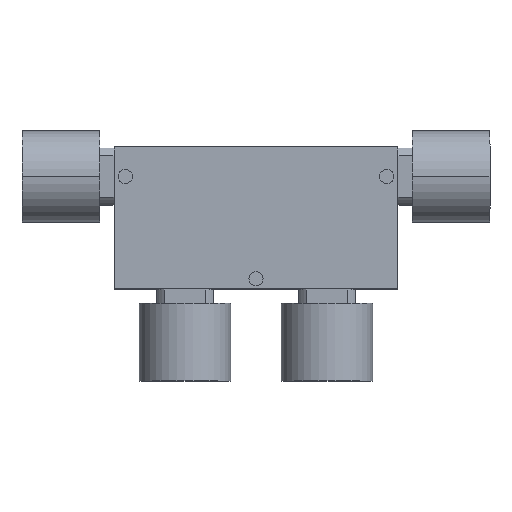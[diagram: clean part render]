
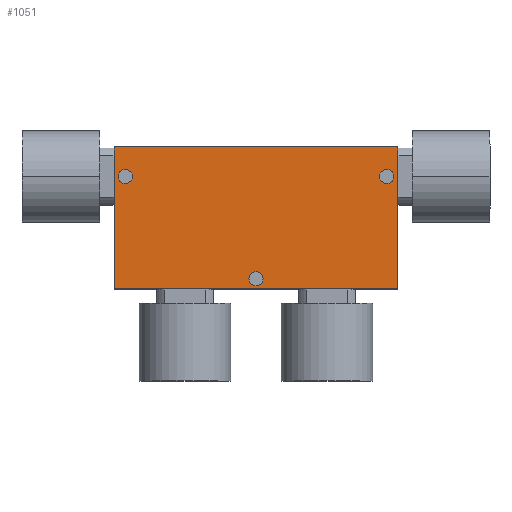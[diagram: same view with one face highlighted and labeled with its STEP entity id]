
A CAD part, top view. The second image highlights one B-rep face of the part: STEP entity #1051.
In plain terms, the highlighted planar face has unit normal (0, 0, 1).
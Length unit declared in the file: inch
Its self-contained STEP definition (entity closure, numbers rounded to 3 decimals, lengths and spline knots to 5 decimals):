
#5 = EDGE_CURVE ( 'NONE', #1721, #904, #818, .T. ) ;
#51 = VERTEX_POINT ( 'NONE', #1908 ) ;
#171 = ORIENTED_EDGE ( 'NONE', *, *, #1635, .F. ) ;
#195 = CARTESIAN_POINT ( 'NONE',  ( 1.25, -0.625, 0.365 ) ) ;
#208 = CARTESIAN_POINT ( 'NONE',  ( 1.25, 0.625, 0.365 ) ) ;
#243 = VECTOR ( 'NONE', #1658, 39.37008 ) ;
#248 = ORIENTED_EDGE ( 'NONE', *, *, #5, .T. ) ;
#253 = DIRECTION ( 'NONE',  ( 0., 0., 1. ) ) ;
#313 = DIRECTION ( 'NONE',  ( 1., 0., 0. ) ) ;
#325 = DIRECTION ( 'NONE',  ( 1., 0., 0. ) ) ;
#328 = ORIENTED_EDGE ( 'NONE', *, *, #784, .T. ) ;
#346 = VECTOR ( 'NONE', #1479, 39.37008 ) ;
#357 = EDGE_CURVE ( 'NONE', #904, #1890, #768, .T. ) ;
#363 = CARTESIAN_POINT ( 'NONE',  ( 0., -0.535, 0.365 ) ) ;
#378 = ORIENTED_EDGE ( 'NONE', *, *, #357, .T. ) ;
#389 = ORIENTED_EDGE ( 'NONE', *, *, #1274, .F. ) ;
#417 = CARTESIAN_POINT ( 'NONE',  ( 1.2125, 0.365, 0.365 ) ) ;
#446 = CARTESIAN_POINT ( 'NONE',  ( -1.25, -0.625, 0.365 ) ) ;
#453 = AXIS2_PLACEMENT_3D ( 'NONE', #501, #1775, #325 ) ;
#469 = AXIS2_PLACEMENT_3D ( 'NONE', #1703, #253, #732 ) ;
#501 = CARTESIAN_POINT ( 'NONE',  ( 1.15, 0.365, 0.365 ) ) ;
#505 = ORIENTED_EDGE ( 'NONE', *, *, #1615, .F. ) ;
#516 = ORIENTED_EDGE ( 'NONE', *, *, #1751, .F. ) ;
#527 = DIRECTION ( 'NONE',  ( 0., 0., 1. ) ) ;
#550 = CARTESIAN_POINT ( 'NONE',  ( -1.25, -0.625, 0.365 ) ) ;
#597 = VERTEX_POINT ( 'NONE', #1318 ) ;
#604 = EDGE_CURVE ( 'NONE', #776, #1885, #1868, .T. ) ;
#648 = DIRECTION ( 'NONE',  ( 0., 0., 1. ) ) ;
#658 = CARTESIAN_POINT ( 'NONE',  ( 1.0875, 0.365, 0.365 ) ) ;
#688 = CIRCLE ( 'NONE', #1259, 0.0625 ) ;
#732 = DIRECTION ( 'NONE',  ( 1., 0., 0. ) ) ;
#748 = AXIS2_PLACEMENT_3D ( 'NONE', #1276, #648, #1464 ) ;
#758 = CARTESIAN_POINT ( 'NONE',  ( -1.2125, 0.365, 0.365 ) ) ;
#768 = LINE ( 'NONE', #1763, #346 ) ;
#776 = VERTEX_POINT ( 'NONE', #758 ) ;
#784 = EDGE_CURVE ( 'NONE', #1890, #1806, #1608, .T. ) ;
#786 = CARTESIAN_POINT ( 'NONE',  ( -1.25, 0.625, 0.365 ) ) ;
#816 = CARTESIAN_POINT ( 'NONE',  ( 0., 0., 0.365 ) ) ;
#818 = LINE ( 'NONE', #1980, #1817 ) ;
#870 = LINE ( 'NONE', #208, #243 ) ;
#904 = VERTEX_POINT ( 'NONE', #786 ) ;
#932 = AXIS2_PLACEMENT_3D ( 'NONE', #1442, #1294, #958 ) ;
#958 = DIRECTION ( 'NONE',  ( 1., 0., 0. ) ) ;
#1051 = ADVANCED_FACE ( 'NONE', ( #1864, #1326, #1377, #1745 ), #1802, .T. ) ;
#1082 = VERTEX_POINT ( 'NONE', #658 ) ;
#1138 = DIRECTION ( 'NONE',  ( 0., 0., 1. ) ) ;
#1212 = EDGE_LOOP ( 'NONE', ( #1256, #505 ) ) ;
#1226 = CARTESIAN_POINT ( 'NONE',  ( -1.0875, 0.365, 0.365 ) ) ;
#1256 = ORIENTED_EDGE ( 'NONE', *, *, #1598, .F. ) ;
#1259 = AXIS2_PLACEMENT_3D ( 'NONE', #363, #527, #1474 ) ;
#1274 = EDGE_CURVE ( 'NONE', #1885, #776, #2058, .T. ) ;
#1276 = CARTESIAN_POINT ( 'NONE',  ( 0., -0.535, 0.365 ) ) ;
#1294 = DIRECTION ( 'NONE',  ( 0., 0., 1. ) ) ;
#1312 = CARTESIAN_POINT ( 'NONE',  ( 1.25, 0.625, 0.365 ) ) ;
#1318 = CARTESIAN_POINT ( 'NONE',  ( 0.0625, -0.535, 0.365 ) ) ;
#1326 = FACE_BOUND ( 'NONE', #1480, .T. ) ;
#1327 = EDGE_LOOP ( 'NONE', ( #389, #1953 ) ) ;
#1377 = FACE_BOUND ( 'NONE', #1327, .T. ) ;
#1410 = VECTOR ( 'NONE', #2022, 39.37008 ) ;
#1442 = CARTESIAN_POINT ( 'NONE',  ( 1.15, 0.365, 0.365 ) ) ;
#1456 = CIRCLE ( 'NONE', #453, 0.0625 ) ;
#1464 = DIRECTION ( 'NONE',  ( 1., 0., 0. ) ) ;
#1474 = DIRECTION ( 'NONE',  ( 1., 0., 0. ) ) ;
#1479 = DIRECTION ( 'NONE',  ( 0., -1., 0. ) ) ;
#1480 = EDGE_LOOP ( 'NONE', ( #171, #516 ) ) ;
#1524 = CIRCLE ( 'NONE', #932, 0.0625 ) ;
#1594 = DIRECTION ( 'NONE',  ( 0., 0., 1. ) ) ;
#1598 = EDGE_CURVE ( 'NONE', #1929, #1082, #1524, .T. ) ;
#1607 = AXIS2_PLACEMENT_3D ( 'NONE', #2063, #1594, #313 ) ;
#1608 = LINE ( 'NONE', #446, #1410 ) ;
#1615 = EDGE_CURVE ( 'NONE', #1082, #1929, #1456, .T. ) ;
#1635 = EDGE_CURVE ( 'NONE', #597, #51, #2009, .T. ) ;
#1658 = DIRECTION ( 'NONE',  ( 0., 1., 0. ) ) ;
#1703 = CARTESIAN_POINT ( 'NONE',  ( -1.15, 0.365, 0.365 ) ) ;
#1721 = VERTEX_POINT ( 'NONE', #1312 ) ;
#1741 = ORIENTED_EDGE ( 'NONE', *, *, #1837, .T. ) ;
#1745 = FACE_OUTER_BOUND ( 'NONE', #1880, .T. ) ;
#1751 = EDGE_CURVE ( 'NONE', #51, #597, #688, .T. ) ;
#1763 = CARTESIAN_POINT ( 'NONE',  ( -1.25, 0.625, 0.365 ) ) ;
#1775 = DIRECTION ( 'NONE',  ( 0., 0., 1. ) ) ;
#1783 = DIRECTION ( 'NONE',  ( 1., 0., 0. ) ) ;
#1784 = AXIS2_PLACEMENT_3D ( 'NONE', #816, #1138, #1783 ) ;
#1802 = PLANE ( 'NONE',  #1784 ) ;
#1806 = VERTEX_POINT ( 'NONE', #195 ) ;
#1814 = DIRECTION ( 'NONE',  ( -1., 0., 0. ) ) ;
#1817 = VECTOR ( 'NONE', #1814, 39.37008 ) ;
#1837 = EDGE_CURVE ( 'NONE', #1806, #1721, #870, .T. ) ;
#1864 = FACE_BOUND ( 'NONE', #1212, .T. ) ;
#1868 = CIRCLE ( 'NONE', #469, 0.0625 ) ;
#1880 = EDGE_LOOP ( 'NONE', ( #1741, #248, #378, #328 ) ) ;
#1885 = VERTEX_POINT ( 'NONE', #1226 ) ;
#1890 = VERTEX_POINT ( 'NONE', #550 ) ;
#1908 = CARTESIAN_POINT ( 'NONE',  ( -0.0625, -0.535, 0.365 ) ) ;
#1929 = VERTEX_POINT ( 'NONE', #417 ) ;
#1953 = ORIENTED_EDGE ( 'NONE', *, *, #604, .F. ) ;
#1980 = CARTESIAN_POINT ( 'NONE',  ( -1.25, 0.625, 0.365 ) ) ;
#2009 = CIRCLE ( 'NONE', #748, 0.0625 ) ;
#2022 = DIRECTION ( 'NONE',  ( 1., 0., 0. ) ) ;
#2058 = CIRCLE ( 'NONE', #1607, 0.0625 ) ;
#2063 = CARTESIAN_POINT ( 'NONE',  ( -1.15, 0.365, 0.365 ) ) ;
